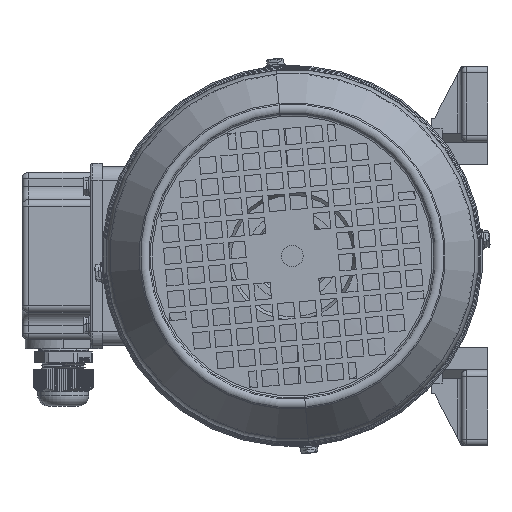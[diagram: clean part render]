
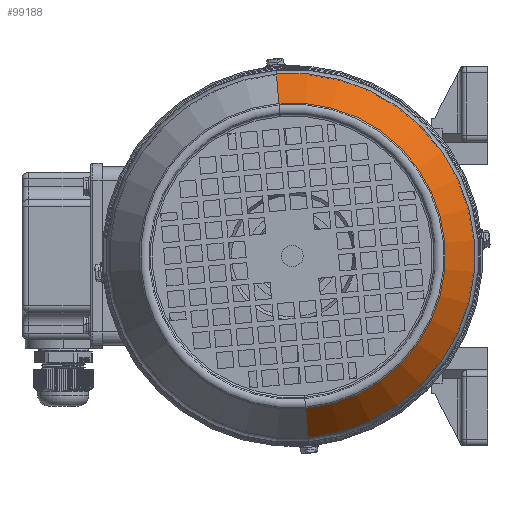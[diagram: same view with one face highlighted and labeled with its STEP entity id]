
A CAD part, left-side view. The second image highlights one B-rep face of the part: STEP entity #99188.
In plain terms, the highlighted conical face has half-angle 32.805 degrees and reference radius 85.75 mm.
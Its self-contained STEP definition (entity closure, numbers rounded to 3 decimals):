
#3107 = ORIENTED_EDGE ( 'NONE', *, *, #39234, .F. ) ;
#3715 = CARTESIAN_POINT ( 'NONE',  ( -57., 0., 0. ) ) ;
#4340 = CARTESIAN_POINT ( 'NONE',  ( -80.625, 0., -70.522 ) ) ;
#4391 = CARTESIAN_POINT ( 'NONE',  ( -57., 0., 85.75 ) ) ;
#4603 = VECTOR ( 'NONE', #44126, 1000. ) ;
#5357 = DIRECTION ( 'NONE',  ( 0., 0., 1. ) ) ;
#9186 = ORIENTED_EDGE ( 'NONE', *, *, #60285, .T. ) ;
#12872 = ORIENTED_EDGE ( 'NONE', *, *, #82552, .F. ) ;
#14051 = VECTOR ( 'NONE', #95234, 1000. ) ;
#14152 = CARTESIAN_POINT ( 'NONE',  ( -59.474, 0., 0. ) ) ;
#31036 = VERTEX_POINT ( 'NONE', #4340 ) ;
#32344 = DIRECTION ( 'NONE',  ( -1., 0., 0. ) ) ;
#38561 = CARTESIAN_POINT ( 'NONE',  ( -59.474, 0., -84.155 ) ) ;
#39234 = EDGE_CURVE ( 'NONE', #70629, #76725, #114826, .T. ) ;
#39867 = DIRECTION ( 'NONE',  ( 0., 0., -1. ) ) ;
#41151 = CIRCLE ( 'NONE', #52532, 84.155 ) ;
#43622 = DIRECTION ( 'NONE',  ( -1., 0., 0. ) ) ;
#44126 = DIRECTION ( 'NONE',  ( 0.841, 0., -0.542 ) ) ;
#52532 = AXIS2_PLACEMENT_3D ( 'NONE', #14152, #32344, #5357 ) ;
#58691 = CONICAL_SURFACE ( 'NONE', #75612, 85.75, 0.573 ) ;
#59161 = DIRECTION ( 'NONE',  ( 1., 0., 0. ) ) ;
#60285 = EDGE_CURVE ( 'NONE', #98574, #76725, #41151, .T. ) ;
#61301 = LINE ( 'NONE', #99683, #4603 ) ;
#61362 = CARTESIAN_POINT ( 'NONE',  ( -80.625, 0., 0. ) ) ;
#67254 = FACE_OUTER_BOUND ( 'NONE', #101630, .T. ) ;
#70629 = VERTEX_POINT ( 'NONE', #115776 ) ;
#75255 = AXIS2_PLACEMENT_3D ( 'NONE', #61362, #43622, #88400 ) ;
#75612 = AXIS2_PLACEMENT_3D ( 'NONE', #3715, #59161, #39867 ) ;
#76725 = VERTEX_POINT ( 'NONE', #103791 ) ;
#82552 = EDGE_CURVE ( 'NONE', #31036, #70629, #93100, .T. ) ;
#88400 = DIRECTION ( 'NONE',  ( 0., 0., 1. ) ) ;
#93100 = CIRCLE ( 'NONE', #75255, 70.522 ) ;
#95234 = DIRECTION ( 'NONE',  ( 0.841, 0., 0.542 ) ) ;
#98574 = VERTEX_POINT ( 'NONE', #38561 ) ;
#99188 = ADVANCED_FACE ( 'NONE', ( #67254 ), #58691, .T. ) ;
#99683 = CARTESIAN_POINT ( 'NONE',  ( -57., 0., -85.75 ) ) ;
#101283 = EDGE_CURVE ( 'NONE', #31036, #98574, #61301, .T. ) ;
#101630 = EDGE_LOOP ( 'NONE', ( #3107, #12872, #106880, #9186 ) ) ;
#103791 = CARTESIAN_POINT ( 'NONE',  ( -59.474, 0., 84.155 ) ) ;
#106880 = ORIENTED_EDGE ( 'NONE', *, *, #101283, .T. ) ;
#114826 = LINE ( 'NONE', #4391, #14051 ) ;
#115776 = CARTESIAN_POINT ( 'NONE',  ( -80.625, 0., 70.522 ) ) ;
